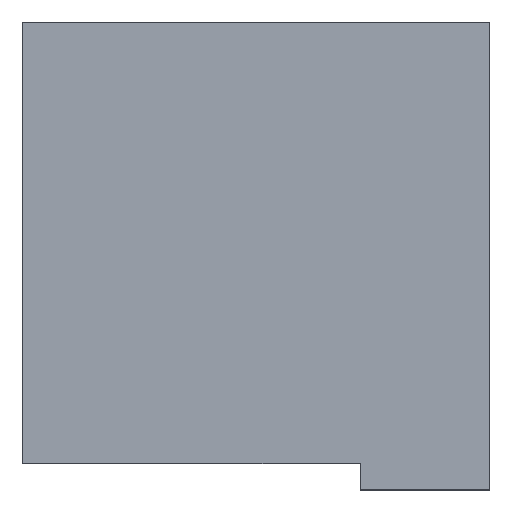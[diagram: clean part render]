
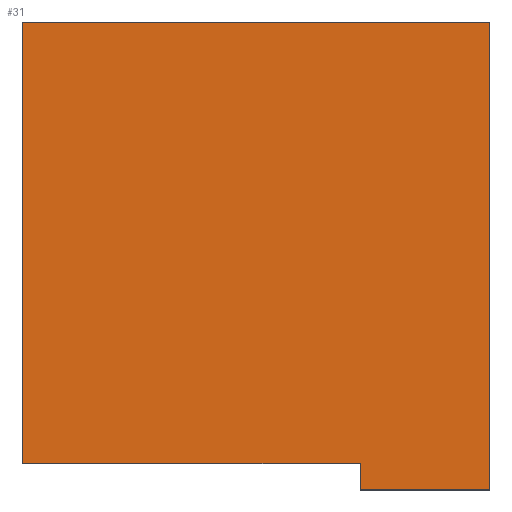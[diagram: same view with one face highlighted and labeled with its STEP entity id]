
A CAD part, top view. The second image highlights one B-rep face of the part: STEP entity #31.
In plain terms, the highlighted planar face has unit normal (0, 0, 1).
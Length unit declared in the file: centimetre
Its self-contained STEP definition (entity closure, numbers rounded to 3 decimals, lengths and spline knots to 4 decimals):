
#7 = EDGE_CURVE ( 'NONE', #377, #218, #43, .T. ) ;
#8 = CARTESIAN_POINT ( 'NONE',  ( 0., 1000., 1000. ) ) ;
#26 = DIRECTION ( 'NONE',  ( 1., 0., 0. ) ) ;
#29 = VECTOR ( 'NONE', #352, 100. ) ;
#31 = ADVANCED_FACE ( 'NONE', ( #270 ), #274, .T. ) ;
#41 = CARTESIAN_POINT ( 'NONE',  ( 0., 55.8326, 1000. ) ) ;
#43 = LINE ( 'NONE', #245, #249 ) ;
#49 = EDGE_CURVE ( 'NONE', #218, #258, #335, .T. ) ;
#72 = ORIENTED_EDGE ( 'NONE', *, *, #93, .T. ) ;
#75 = LINE ( 'NONE', #136, #81 ) ;
#81 = VECTOR ( 'NONE', #279, 100. ) ;
#93 = EDGE_CURVE ( 'NONE', #377, #186, #271, .T. ) ;
#108 = CARTESIAN_POINT ( 'NONE',  ( 0., 55.8326, 1000. ) ) ;
#117 = AXIS2_PLACEMENT_3D ( 'NONE', #393, #278, #396 ) ;
#119 = EDGE_CURVE ( 'NONE', #134, #258, #75, .T. ) ;
#134 = VERTEX_POINT ( 'NONE', #157 ) ;
#136 = CARTESIAN_POINT ( 'NONE',  ( 0., 1000., 1000. ) ) ;
#156 = VERTEX_POINT ( 'NONE', #329 ) ;
#157 = CARTESIAN_POINT ( 'NONE',  ( 0., 1000., 1000. ) ) ;
#162 = CARTESIAN_POINT ( 'NONE',  ( 1000., 0., 1000. ) ) ;
#171 = DIRECTION ( 'NONE',  ( -1., 0., 0. ) ) ;
#177 = VECTOR ( 'NONE', #330, 100. ) ;
#178 = CARTESIAN_POINT ( 'NONE',  ( 723.1288, 0., 1000. ) ) ;
#186 = VERTEX_POINT ( 'NONE', #162 ) ;
#201 = EDGE_LOOP ( 'NONE', ( #240, #231, #72, #360, #272, #357 ) ) ;
#218 = VERTEX_POINT ( 'NONE', #264 ) ;
#229 = LINE ( 'NONE', #8, #29 ) ;
#231 = ORIENTED_EDGE ( 'NONE', *, *, #7, .F. ) ;
#240 = ORIENTED_EDGE ( 'NONE', *, *, #49, .F. ) ;
#245 = CARTESIAN_POINT ( 'NONE',  ( 723.1288, 0., 1000. ) ) ;
#249 = VECTOR ( 'NONE', #369, 100. ) ;
#258 = VERTEX_POINT ( 'NONE', #41 ) ;
#264 = CARTESIAN_POINT ( 'NONE',  ( 723.1288, 55.8326, 1000. ) ) ;
#266 = EDGE_CURVE ( 'NONE', #156, #134, #229, .T. ) ;
#270 = FACE_OUTER_BOUND ( 'NONE', #201, .T. ) ;
#271 = LINE ( 'NONE', #312, #318 ) ;
#272 = ORIENTED_EDGE ( 'NONE', *, *, #266, .T. ) ;
#274 = PLANE ( 'NONE',  #117 ) ;
#278 = DIRECTION ( 'NONE',  ( 0., 0., 1. ) ) ;
#279 = DIRECTION ( 'NONE',  ( 0., -1., 0. ) ) ;
#287 = VECTOR ( 'NONE', #171, 100. ) ;
#312 = CARTESIAN_POINT ( 'NONE',  ( 0., 0., 1000. ) ) ;
#318 = VECTOR ( 'NONE', #26, 100. ) ;
#329 = CARTESIAN_POINT ( 'NONE',  ( 1000., 1000., 1000. ) ) ;
#330 = DIRECTION ( 'NONE',  ( 0., 1., 0. ) ) ;
#335 = LINE ( 'NONE', #108, #287 ) ;
#340 = LINE ( 'NONE', #341, #177 ) ;
#341 = CARTESIAN_POINT ( 'NONE',  ( 1000., 1000., 1000. ) ) ;
#352 = DIRECTION ( 'NONE',  ( -1., 0., 0. ) ) ;
#357 = ORIENTED_EDGE ( 'NONE', *, *, #119, .T. ) ;
#360 = ORIENTED_EDGE ( 'NONE', *, *, #381, .T. ) ;
#369 = DIRECTION ( 'NONE',  ( 0., 1., 0. ) ) ;
#377 = VERTEX_POINT ( 'NONE', #178 ) ;
#381 = EDGE_CURVE ( 'NONE', #186, #156, #340, .T. ) ;
#393 = CARTESIAN_POINT ( 'NONE',  ( 0., 0., 1000. ) ) ;
#396 = DIRECTION ( 'NONE',  ( 1., 0., 0. ) ) ;
